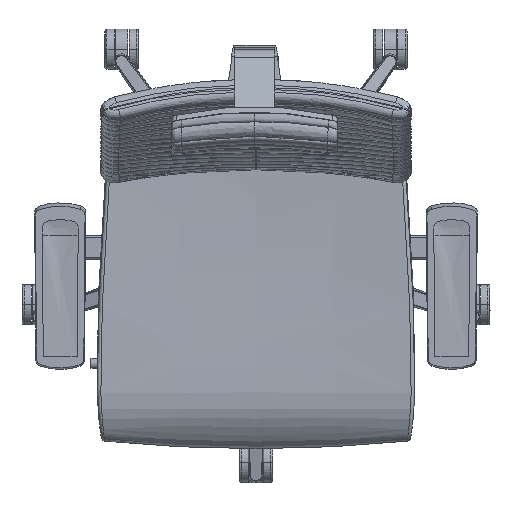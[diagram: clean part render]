
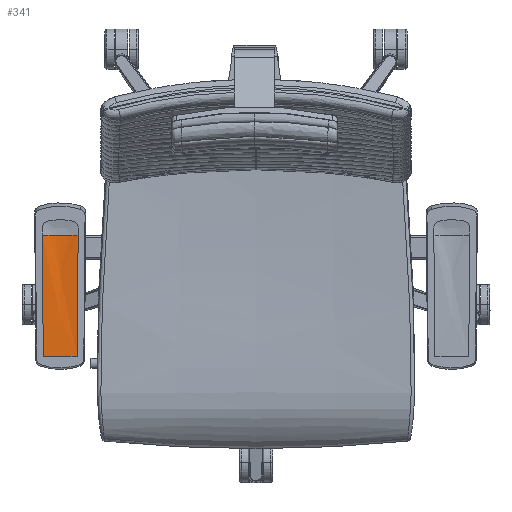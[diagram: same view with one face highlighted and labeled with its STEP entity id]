
A CAD part, top view. The second image highlights one B-rep face of the part: STEP entity #341.
In plain terms, the highlighted free-form (B-spline) face has degree [2, 3] with [3, 4] control points.
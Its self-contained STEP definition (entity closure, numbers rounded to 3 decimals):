
#341=ADVANCED_FACE('',(#1136),#10749,.T.);
#1136=FACE_OUTER_BOUND('',#1931,.T.);
#1931=EDGE_LOOP('',(#3499,#3500,#3501,#3502,#3503));
#3499=ORIENTED_EDGE('',*,*,#6447,.F.);
#3500=ORIENTED_EDGE('',*,*,#6431,.F.);
#3501=ORIENTED_EDGE('',*,*,#6429,.F.);
#3502=ORIENTED_EDGE('',*,*,#6428,.F.);
#3503=ORIENTED_EDGE('',*,*,#6430,.F.);
#6428=EDGE_CURVE('',#9922,#9923,#7921,.T.);
#6429=EDGE_CURVE('',#9923,#9921,#7922,.T.);
#6430=EDGE_CURVE('',#9924,#9922,#7923,.T.);
#6431=EDGE_CURVE('',#9921,#9925,#7924,.T.);
#6447=EDGE_CURVE('',#9925,#9924,#8594,.T.);
#7921=(
BOUNDED_CURVE()
B_SPLINE_CURVE(2,(#23166,#23167,#23168),.UNSPECIFIED.,.F.,.F.)
B_SPLINE_CURVE_WITH_KNOTS((3,3),(0.,26.864),.UNSPECIFIED.)
CURVE()
GEOMETRIC_REPRESENTATION_ITEM()
RATIONAL_B_SPLINE_CURVE((1.,0.994,1.))
REPRESENTATION_ITEM('')
);
#7922=(
BOUNDED_CURVE()
B_SPLINE_CURVE(2,(#23169,#23170,#23171),.UNSPECIFIED.,.F.,.F.)
B_SPLINE_CURVE_WITH_KNOTS((3,3),(-26.864,0.),.UNSPECIFIED.)
CURVE()
GEOMETRIC_REPRESENTATION_ITEM()
RATIONAL_B_SPLINE_CURVE((1.,0.994,1.))
REPRESENTATION_ITEM('')
);
#7923=(
BOUNDED_CURVE()
B_SPLINE_CURVE(3,(#23172,#23173,#23174,#23175),.UNSPECIFIED.,.F.,.F.)
B_SPLINE_CURVE_WITH_KNOTS((4,4),(0.,180.167),.UNSPECIFIED.)
CURVE()
GEOMETRIC_REPRESENTATION_ITEM()
RATIONAL_B_SPLINE_CURVE((1.,1.,1.,1.))
REPRESENTATION_ITEM('')
);
#7924=(
BOUNDED_CURVE()
B_SPLINE_CURVE(3,(#23176,#23177,#23178,#23179),.UNSPECIFIED.,.F.,.F.)
B_SPLINE_CURVE_WITH_KNOTS((4,4),(-180.167,0.),.UNSPECIFIED.)
CURVE()
GEOMETRIC_REPRESENTATION_ITEM()
RATIONAL_B_SPLINE_CURVE((1.,1.,1.,1.))
REPRESENTATION_ITEM('')
);
#8594=B_SPLINE_CURVE_WITH_KNOTS('',1,(#23241,#23242),.UNSPECIFIED.,.F.,
 .F.,(2,2),(0.,50.276),.UNSPECIFIED.);
#9921=VERTEX_POINT('',#23138);
#9922=VERTEX_POINT('',#23139);
#9923=VERTEX_POINT('',#23140);
#9924=VERTEX_POINT('',#23141);
#9925=VERTEX_POINT('',#23142);
#10749=(
BOUNDED_SURFACE()
B_SPLINE_SURFACE(2,3,((#23058,#23059,#23060,#23061),(#23062,#23063,#23064,
#23065),(#23066,#23067,#23068,#23069)),.UNSPECIFIED.,.F.,.F.,.F.)
B_SPLINE_SURFACE_WITH_KNOTS((3,3),(4,4),(-53.728,0.),(0.,180.167),
 .UNSPECIFIED.)
GEOMETRIC_REPRESENTATION_ITEM()
RATIONAL_B_SPLINE_SURFACE(((1.,1.,1.,1.),(0.975,0.975,
0.975,0.975),(1.,1.,1.,1.)))
REPRESENTATION_ITEM('')
SURFACE()
);
#23058=CARTESIAN_POINT('',(-315.828,-164.805,673.407));
#23059=CARTESIAN_POINT('',(-316.329,-104.752,673.259));
#23060=CARTESIAN_POINT('',(-316.829,-44.699,673.11));
#23061=CARTESIAN_POINT('',(-317.33,15.355,672.962));
#23062=CARTESIAN_POINT('',(-290.691,-164.805,673.407));
#23063=CARTESIAN_POINT('',(-290.691,-104.752,673.31));
#23064=CARTESIAN_POINT('',(-290.691,-44.713,667.198));
#23065=CARTESIAN_POINT('',(-290.691,15.34,666.885));
#23066=CARTESIAN_POINT('',(-265.553,-164.805,673.407));
#23067=CARTESIAN_POINT('',(-265.052,-104.752,673.259));
#23068=CARTESIAN_POINT('',(-264.552,-44.699,673.11));
#23069=CARTESIAN_POINT('',(-264.051,15.355,672.962));
#23138=CARTESIAN_POINT('',(-264.051,15.355,672.962));
#23139=CARTESIAN_POINT('',(-317.33,15.355,672.962));
#23140=CARTESIAN_POINT('',(-290.691,15.347,669.962));
#23141=CARTESIAN_POINT('',(-315.828,-164.805,673.407));
#23142=CARTESIAN_POINT('',(-265.553,-164.805,673.407));
#23166=CARTESIAN_POINT('',(-317.33,15.355,672.962));
#23167=CARTESIAN_POINT('',(-304.179,15.347,669.962));
#23168=CARTESIAN_POINT('',(-290.691,15.347,669.962));
#23169=CARTESIAN_POINT('',(-290.691,15.347,669.962));
#23170=CARTESIAN_POINT('',(-277.202,15.347,669.962));
#23171=CARTESIAN_POINT('',(-264.051,15.355,672.962));
#23172=CARTESIAN_POINT('',(-315.828,-164.805,673.407));
#23173=CARTESIAN_POINT('',(-316.329,-104.752,673.259));
#23174=CARTESIAN_POINT('',(-316.829,-44.699,673.11));
#23175=CARTESIAN_POINT('',(-317.33,15.355,672.962));
#23176=CARTESIAN_POINT('',(-264.051,15.355,672.962));
#23177=CARTESIAN_POINT('',(-264.552,-44.699,673.11));
#23178=CARTESIAN_POINT('',(-265.052,-104.752,673.259));
#23179=CARTESIAN_POINT('',(-265.553,-164.805,673.407));
#23241=CARTESIAN_POINT('',(-265.553,-164.805,673.407));
#23242=CARTESIAN_POINT('',(-315.828,-164.805,673.407));
